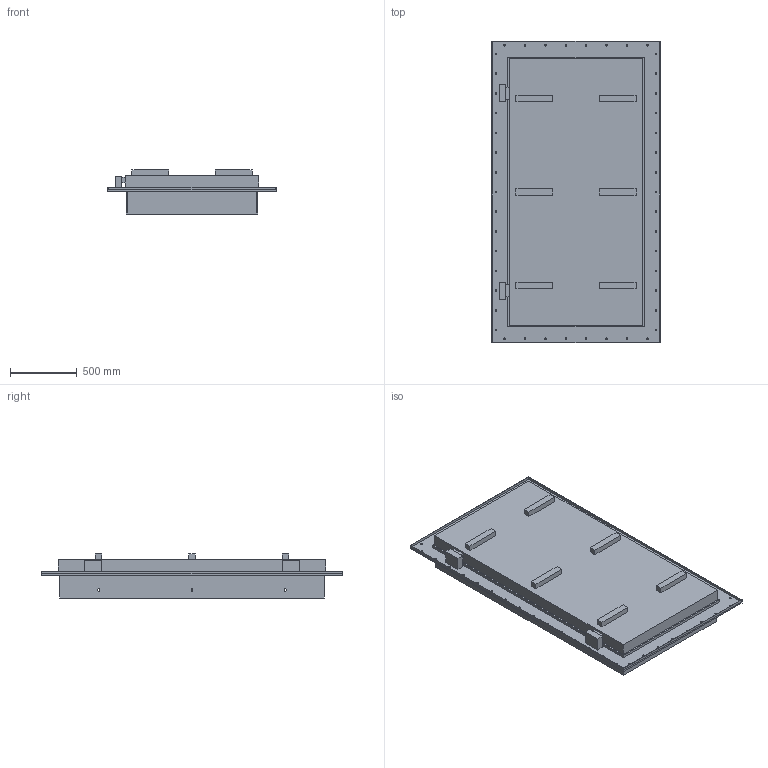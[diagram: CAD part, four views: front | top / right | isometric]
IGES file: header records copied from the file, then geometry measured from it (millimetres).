
Start section:  PTC IGES file: 51621370.igs
Global section: file name: 51621370.igs; native system: Creo Parametric by PTC Inc.; preprocessor: 2019224; author: ka; organization: Unknown; date: 20210202.063949; units: millimetre
Bounding box: 1260 x 2260 x 330 mm (x, y, z)
Surface area: 9365360.5 mm2 (no closed solid volume)
Topology: 0 solids, 0 shells, 225 faces, 1224 edges, 1224 vertices
Faces by surface type: bspline 121, revolution 104
